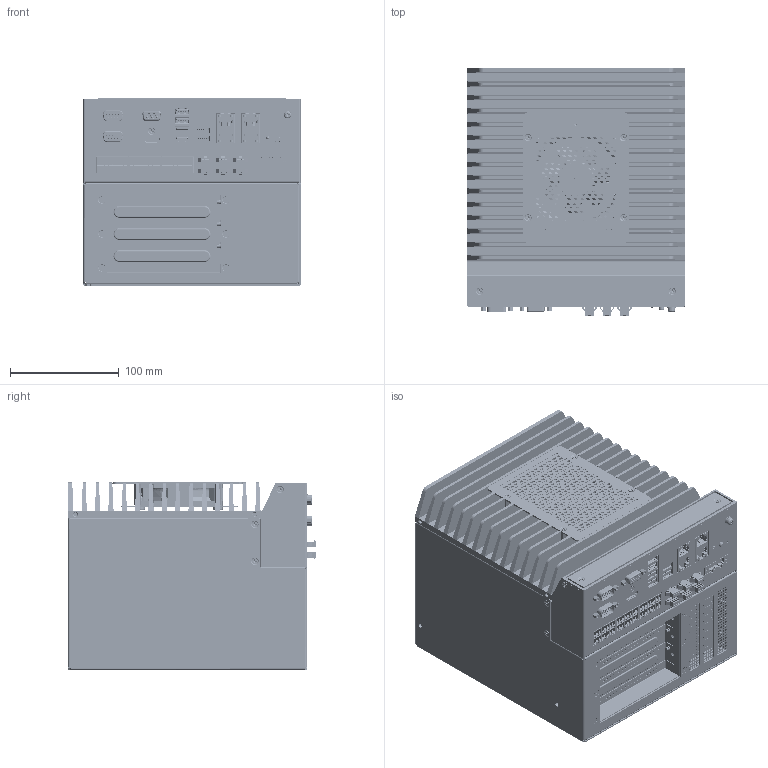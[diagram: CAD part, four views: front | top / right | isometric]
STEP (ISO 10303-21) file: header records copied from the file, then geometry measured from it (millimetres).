
FILE_DESCRIPTION((''),'2;1');
FILE_NAME('VC4000','2026-05-21T10:56:50',('yangxiaobing6'),(''),'CREO PARAMETRIC BY PTC INC, 2020044','CREO PARAMETRIC BY PTC INC, 2020044','');
FILE_SCHEMA(('CONFIG_CONTROL_DESIGN','SHAPE_APPEARANCE_LAYERS_GROUPS'));
Products named in the file (1): VC4000
Bounding box: 200 x 228.3 x 172.65 mm (x, y, z)
Volume: 6168157.4 mm3; surface area: 807510.8 mm2
Topology: 14 solids, 330 shells, 19319 faces, 54872 edges, 35454 vertices
Faces by surface type: plane 10748, cylinder 7324, bspline 471, cone 423, torus 249, extrusion 56, sphere 48
Entity records: 779442 total; most frequent: CARTESIAN_POINT 189171, ORIENTED_EDGE 108498, DIRECTION 105210, EDGE_CURVE 54727, VERTEX_POINT 35454, VECTOR 35188, LINE 35132, AXIS2_PLACEMENT_3D 35011
